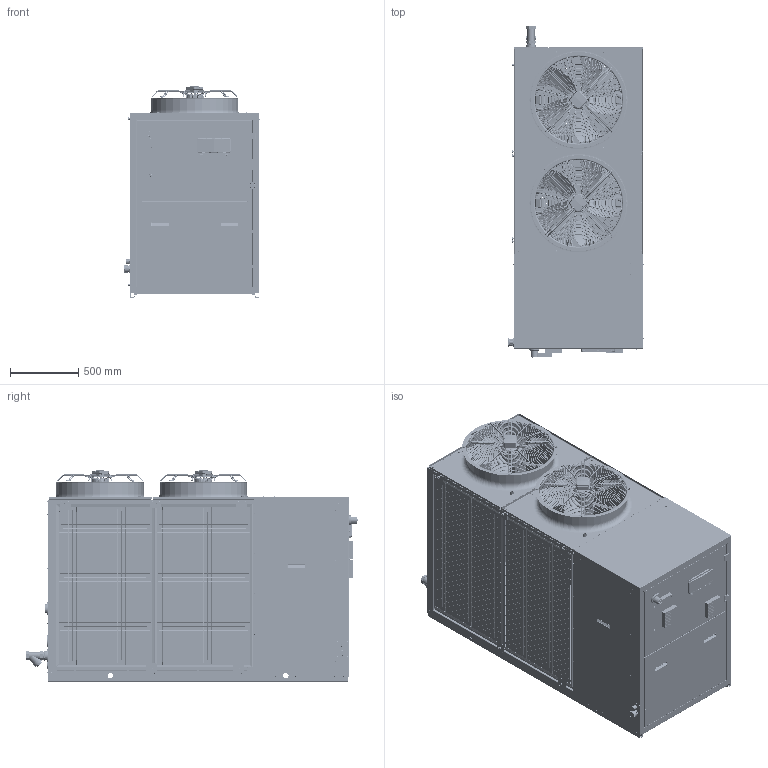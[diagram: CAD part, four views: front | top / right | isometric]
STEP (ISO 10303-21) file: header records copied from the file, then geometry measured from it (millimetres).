
FILE_DESCRIPTION (( 'STEP AP203' ), '1' );
FILE_NAME ('FRAME2-2V_REV_00.STEP', '2026-07-20T13:31:04', ( '' ), ( '' ), 'SwSTEP 2.0', 'SolidWorks 2023', '' );
FILE_SCHEMA (( 'CONFIG_CONTROL_DESIGN' ));
Length unit declared in the file: millimetre
Products named in the file (118): RG059001903; vm40000448; RG059001528; 1700846; RG059001519; RG05924562; VM80000152; VM85000453 (MOUSSE ADESIVA 40x20)_oa_7; RG059001516; 92800444; VM85000703; RG100000792; RG100000982; RG059001911; 92800482; VM40000402; VM85000453 (MOUSSE ADESIVA 40x20)_oa_2; VM40000548; RG059001525; 92850152 (MOUSSE ADESIVA 3x20)_oa_29; VM85000453 (MOUSSE ADESIVA 40x20)_oa_6; 40-MI-00400_CSBZA 60 (F2); 92850152 (MOUSSE ADESIVA 3x20)_oa_28; VM40000096; RG059001521; RG100000815; RG05927164; RG100000813; FI-AC-00071 - FILTRO Y 2 POLLICI; RG059001900; RG059001523; CR-4D-00050_000; VM85000453 (MOUSSE ADESIVA 40x20)_oa_3; CSBZA 60 (F2)(2); RG05927145; RG05905594; RG40012202; RG059000593; HF80000089; RG059001951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
Assembly tree (574 placements, depth 6):
  FRAME2-2V_REV_00
    40-MI-00400_CSBZA 60 (F2)
      CSBZA 60 (F2)(2)
        RG100000982
          RG100001030
            rg05927303  x6
            hf80000080  x53
            RG059000336  x2
            RG059001951
          RG100000792
            VM800000021  x15
            RG059001544
            RG059000593
            RG059001511
            RG05922531  x2
            RG059001513
            HF80000005  x2
            VM85000014 (MOUSSE ADESIVA 10x15)_oa_0
            VM85000014 (MOUSSE ADESIVA 10x15)_oa_1
            VM85000453 (MOUSSE ADESIVA 40x20)_oa_2
            VM85000453 (MOUSSE ADESIVA 40x20)_oa_3
            VM85000453 (MOUSSE ADESIVA 40x20)_oa_4
            VM85000453 (MOUSSE ADESIVA 40x20)_oa_5
            VM85000453 (MOUSSE ADESIVA 40x20)_oa_6
            VM85000453 (MOUSSE ADESIVA 40x20)_oa_7
          RG059000371  x2
          RG059001907
          RG059001525
          HF80000005  x73
          VM800000021  x121
          RG059001900
          RG059001519
          RG059001908
          RG059001909
          RG059001903
          1700846  x6
          VM800000032  x5
          RG059001522
          hf80000080  x4
          RG059001523
          RG059001901
          RG059001524
          RG059001516  x2
          RG059001521
          92550421  x6
          RG05924562
          RG059001911  x2
          RG059001904
          RG05905594
          1700226
          RG059001902
          RG059001910
        RG100000795
          RG059001526
          RG059001527
          RG05926311
          RG059001533
          RG05922137  x2
          hf80000080  x12
          HF80000005  x4
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Bounding box: 995.14 x 2440 x 1553.13 mm (x, y, z)
Volume: 41454153.2 mm3; surface area: 46080810.9 mm2
Topology: 593 solids, 597 shells, 36075 faces, 97819 edges, 62616 vertices
Faces by surface type: plane 16931, cylinder 13545, torus 3017, bspline 1552, cone 524, sphere 506
Entity records: 695102 total; most frequent: CARTESIAN_POINT 325934, ORIENTED_EDGE 78590, DIRECTION 64409, EDGE_CURVE 39295, VERTEX_POINT 25370, AXIS2_PLACEMENT_3D 21738, VECTOR 20933, LINE 20933
